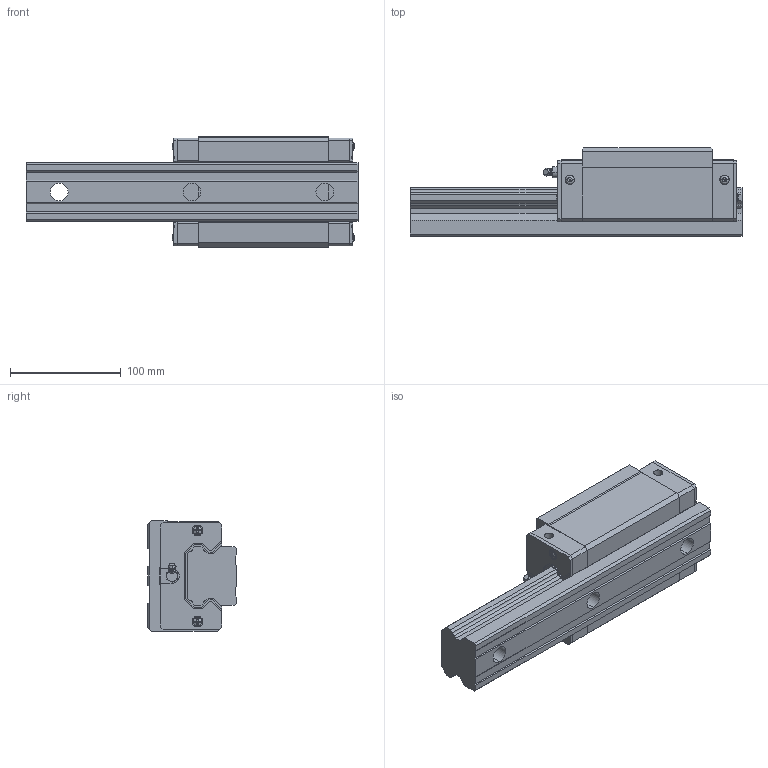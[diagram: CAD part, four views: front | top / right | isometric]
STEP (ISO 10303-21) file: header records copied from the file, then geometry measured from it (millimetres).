
FILE_DESCRIPTION (( 'STEP AP214' ), '1' );
FILE_NAME ('GHH55CA1R300Z0C-30_30.STEP', '2023-05-22T05:10:59', ( '' ), ( '' ), 'SwSTEP 2.0', 'SolidWorks 2022', '' );
FILE_SCHEMA (( 'AUTOMOTIVE_DESIGN' ));
Length unit declared in the file: millimetre
Products named in the file (8): GH55_SCREW; GHR55R300C+RC-30_30_RAIL; GHH55CA_C; GHH55CA_SLIDER; GHH55CA_P; GH55_BOLT; GHH55CA1R300Z0C-30_30; GH55-_G
Assembly tree (12 placements, depth 2):
  GHH55CA1R300Z0C-30_30
    GH55-_G
    GH55_SCREW  x4
    GHH55CA_P  x2
    GHH55CA_C  x2
    GH55_BOLT
    GHH55CA_SLIDER
    GHR55R300C+RC-30_30_RAIL
Bounding box: 300 x 80 x 100 mm (x, y, z)
Volume: 1367131.7 mm3; surface area: 180372 mm2
Topology: 11 solids, 13 shells, 526 faces, 1366 edges, 887 vertices
Faces by surface type: plane 347, cylinder 113, cone 42, bspline 18, torus 6
Entity records: 14598 total; most frequent: CARTESIAN_POINT 2144, DIRECTION 1745, ORIENTED_EDGE 1740, EDGE_CURVE 872, VECTOR 605, LINE 605, AXIS2_PLACEMENT_3D 570, VERTEX_POINT 565
